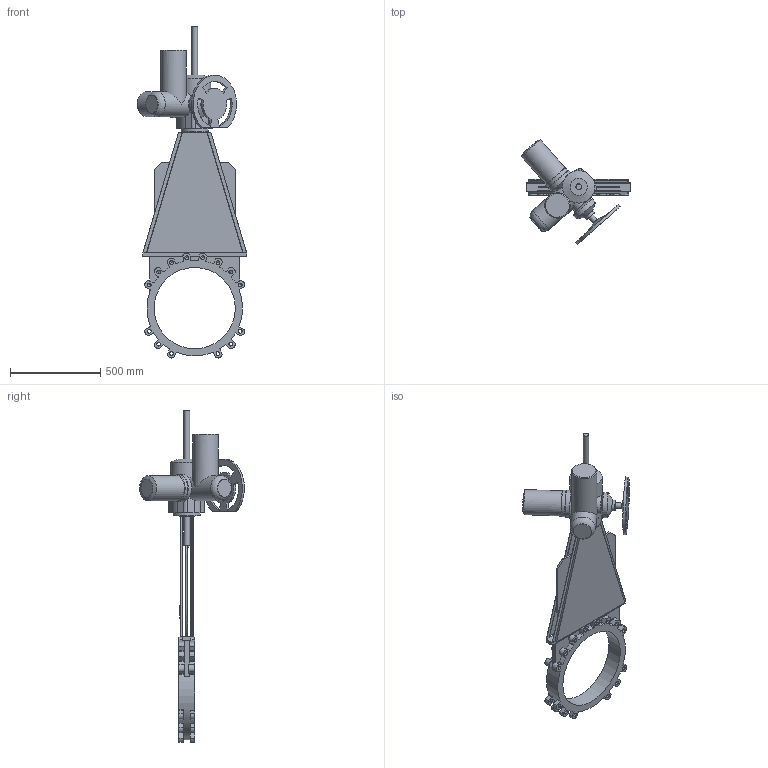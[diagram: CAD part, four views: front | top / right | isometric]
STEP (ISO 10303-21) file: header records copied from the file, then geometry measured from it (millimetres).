
FILE_DESCRIPTION(('STEP AP203'), '1');
FILE_NAME('K51GVA_DN450+MT903.A 30', '', ('UNSPECIFIED'), ('UNSPECIFIED'), 'ASCON STEP Converter 1.6', 'ASCON Math Kernel', '');
FILE_SCHEMA(('CONFIG_CONTROL_DESIGN'));
Length unit declared in the file: millimetre
Bounding box: 605.29 x 580.06 x 1839.44 mm (x, y, z)
Volume: 32628066.9 mm3; surface area: 2963147.5 mm2
Topology: 1 solids, 1 shells, 396 faces, 1104 edges, 716 vertices
Faces by surface type: plane 208, cylinder 157, cone 30, torus 1
Full cylindrical faces by diameter (mm): 10.106 x4, 14 x8, 20.752 x28, 32 x3, 60 x1, 80 x1, 100 x1, 140 x4, 147 x1, 150 x1, 151 x1, 450 x1
Entity records: 16405 total; most frequent: CARTESIAN_POINT 3155, DIRECTION 2145, ORIENTED_EDGE 2000, EDGE_CURVE 1000, AXIS2_PLACEMENT_3D 779, VERTEX_POINT 696, LINE 587, VECTOR 587
